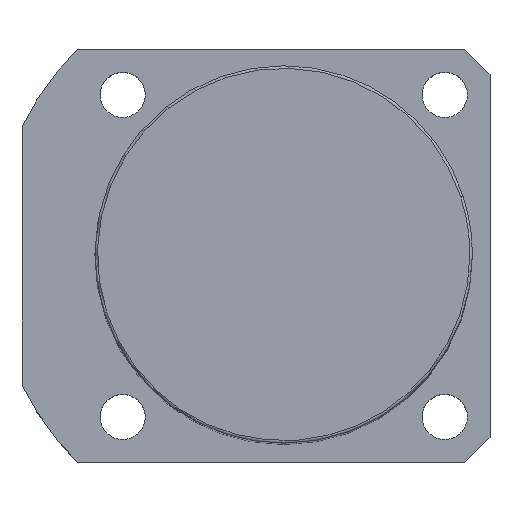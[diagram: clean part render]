
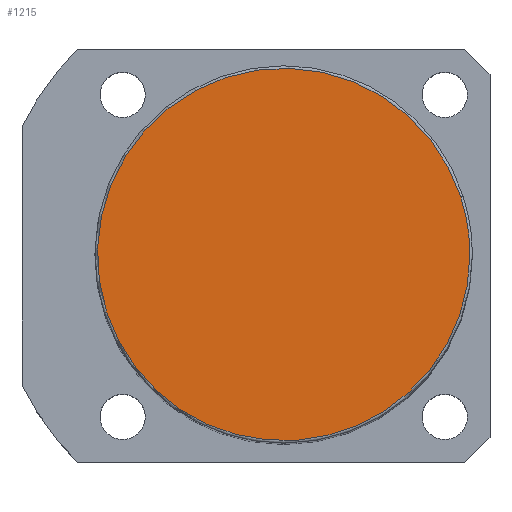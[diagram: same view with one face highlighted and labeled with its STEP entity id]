
A CAD part, top view. The second image highlights one B-rep face of the part: STEP entity #1215.
In plain terms, the highlighted planar face has unit normal (0, 0, 1).
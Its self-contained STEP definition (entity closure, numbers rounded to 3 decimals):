
#1148=CARTESIAN_POINT('',(35.189,11.434,173.0));
#1149=VERTEX_POINT('',#1148);
#1167=CARTESIAN_POINT('',(-35.189,-11.434,173.0));
#1168=VERTEX_POINT('',#1167);
#1176=CARTESIAN_POINT('',(0.0,0.0,173.0));
#1177=DIRECTION('',(0.0,0.0,1.0));
#1178=DIRECTION('',(1.0,0.0,0.0));
#1179=AXIS2_PLACEMENT_3D('',#1176,#1177,#1178);
#1180=CIRCLE('',#1179,37.0);
#1181=EDGE_CURVE('no 1751',#1149,#1168,#1180,.T.);
#1191=CARTESIAN_POINT('',(37.0,0.0,173.0));
#1192=VERTEX_POINT('',#1191);
#1193=CARTESIAN_POINT('',(0.0,0.0,173.0));
#1194=DIRECTION('',(0.0,0.0,1.0));
#1195=DIRECTION('',(1.0,0.0,0.0));
#1196=AXIS2_PLACEMENT_3D('',#1193,#1194,#1195);
#1197=CIRCLE('',#1196,37.0);
#1198=EDGE_CURVE('no 1760',#1192,#1149,#1197,.T.);
#1199=ORIENTED_EDGE('',*,*,#1198,.T.);
#1200=ORIENTED_EDGE('',*,*,#1181,.T.);
#1201=CARTESIAN_POINT('',(0.0,0.0,173.0));
#1202=DIRECTION('',(0.0,0.0,1.0));
#1203=DIRECTION('',(1.0,0.0,0.0));
#1204=AXIS2_PLACEMENT_3D('',#1201,#1202,#1203);
#1205=CIRCLE('',#1204,37.0);
#1206=EDGE_CURVE('no 1766',#1168,#1192,#1205,.T.);
#1207=ORIENTED_EDGE('',*,*,#1206,.T.);
#1208=EDGE_LOOP('',(#1199,#1200,#1207));
#1209=FACE_OUTER_BOUND('',#1208,.T.);
#1210=CARTESIAN_POINT('',(0.0,0.0,173.0));
#1211=DIRECTION('',(0.0,0.0,1.0));
#1212=DIRECTION('',(1.0,0.0,0.0));
#1213=AXIS2_PLACEMENT_3D('',#1210,#1211,#1212);
#1214=PLANE('',#1213);
#1215=ADVANCED_FACE('no 1753',(#1209),#1214,.T.);
